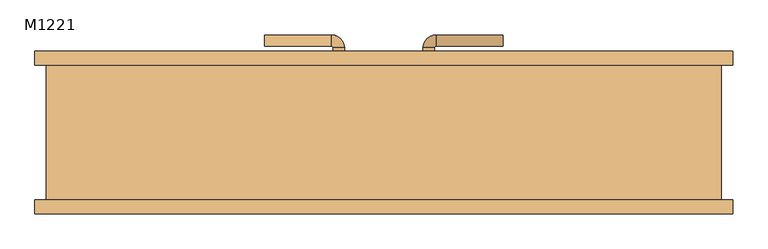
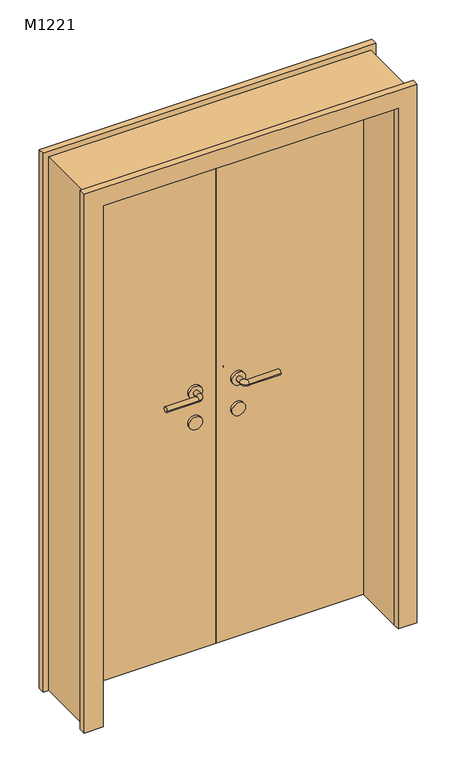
"""IFC4 building model written with IfcOpenShell, lengths in millimetres: door geometry, 双面嵌板木门 1 : M1221."""

from ifc_helpers import new_model, si_unit, point, frame, frame_2d, origin, origin_with_axes, place, context, project, spatial, polyline, circle_curve, ellipse_curve, trimmed, segment, composite_curve, outline, extrude, source, transform, mapped, element, save
from ifc_brep_helpers import plane_surface, cylinder_surface, revolved_surface, advanced_brep


def m1221_25037a99(model_context):
    return source(origin(), model_context, "Body", "SolidModel", [
        extrude(outline(composite_curve([segment(trimmed(circle_curve(frame_2d((900.0, 80.0)), 25.0), [point((900.0, 105.0))], [point((900.0, 55.0))], False, "CARTESIAN"), True, "CONTINUOUS"), segment(trimmed(circle_curve(frame_2d((900.0, 80.0)), 25.0), [point((900.0, 55.0))], [point((900.0, 105.0))], False, "CARTESIAN"), True, "CONTINUOUS")], self_intersect=False)), frame((0.0, 120.0, 0.0), z_axis=(0.0, 1.0, 0.0), x_axis=(0.0, 0.0, 1.0)), (0.0, 0.0, 1.0), 10.0),
        extrude(outline(composite_curve([segment(trimmed(circle_curve(frame_2d((900.0, 80.0)), 25.0), [point((900.0, 105.0))], [point((900.0, 55.0))], False, "CARTESIAN"), True, "CONTINUOUS"), segment(trimmed(circle_curve(frame_2d((900.0, 80.0)), 25.0), [point((900.0, 55.0))], [point((900.0, 105.0))], False, "CARTESIAN"), True, "CONTINUOUS")], self_intersect=False)), frame((0.0, 70.0, 0.0), z_axis=(0.0, 1.0, 0.0), x_axis=(0.0, 0.0, 1.0)), (0.0, 0.0, 1.0), 10.0),
        advanced_brep(
        [(70.0, 130.0, 1020.0), (90.0, 130.0, 1020.0), (70.0, 150.6133551, 1020.0), (90.0, 150.6133551, 1020.0), (211.580964, 173.580964, 1020.0), (211.580964, 153.580964, 1020.0), (92.9676089, 153.580964, 1020.0), (92.9676089, 173.580964, 1020.0)],
        [
            (0, 1, circle_curve(frame((80.0, 130.0, 1020.0), z_axis=(0.0, -1.0, 0.0), x_axis=(1.0, 0.0, 0.0)), 10.0)),
            (1, 0, circle_curve(frame((80.0, 130.0, 1020.0), z_axis=(0.0, -1.0, 0.0), x_axis=(1.0, 0.0, 0.0)), 10.0)),
            (0, 2),
            (2, 3, circle_curve(frame((80.0, 150.6133551, 1020.0), z_axis=(0.0, -1.0, 0.0), x_axis=(1.0, 0.0, 0.0)), 10.0)),
            (3, 1),
            (3, 2, circle_curve(frame((80.0, 150.6133551, 1020.0), z_axis=(0.0, -1.0, 0.0), x_axis=(1.0, 0.0, 0.0)), 10.0)),
            (4, 5, circle_curve(frame((211.580964, 163.580964, 1020.0), z_axis=(1.0, 0.0, 0.0), x_axis=(0.0, -1.0, 0.0)), 10.0)),
            (5, 4, circle_curve(frame((211.580964, 163.580964, 1020.0), z_axis=(1.0, 0.0, 0.0), x_axis=(0.0, -1.0, 0.0)), 10.0)),
            (6, 7, circle_curve(frame((92.9676089, 163.580964, 1020.0), z_axis=(-1.0, 0.0, 0.0), x_axis=(0.0, -1.0, 0.0)), 10.0)),
            (7, 2, circle_curve(frame((92.9676089, 150.6133551, 1020.0), z_axis=(0.0, 0.0, 1.0), x_axis=(-1.0, 0.0, 0.0)), 22.9676089)),
            (3, 6, circle_curve(frame((92.9676089, 150.6133551, 1020.0), z_axis=(0.0, 0.0, -1.0), x_axis=(-1.0, 0.0, 0.0)), 2.9676089)),
            (7, 6, circle_curve(frame((92.9676089, 163.580964, 1020.0), z_axis=(-1.0, 0.0, 0.0), x_axis=(0.0, -1.0, 0.0)), 10.0)),
            (6, 5),
            (4, 7),
        ],
        [
            plane_surface(frame((80.0, 130.0, 900.0), z_axis=(0.0, -1.0, 0.0), x_axis=(0.0, 0.0, 1.0))),
            cylinder_surface(frame((80.0, 130.0, 1020.0), z_axis=(0.0, -1.0, 0.0), x_axis=(1.0, 0.0, 0.0)), 10.0),
            plane_surface(frame((211.580964, 163.580964, 900.0), z_axis=(1.0, 0.0, 0.0), x_axis=(0.0, 0.0, 1.0))),
            revolved_surface(trimmed(ellipse_curve(frame((80.0, 150.6133551, 1020.0), z_axis=(0.0, 1.0, 0.0), x_axis=(1.0, 0.0, 0.0)), 10.0, 10.0), [point((70.0, 150.6133551, 1020.0))], [point((90.0, 150.6133551, 1020.0))], True, "CARTESIAN"), (92.9676089, 150.6133551, 900.0), (0.0, 0.0, 1.0)),
            revolved_surface(trimmed(ellipse_curve(frame((80.0, 150.6133551, 1020.0), z_axis=(0.0, 1.0, 0.0), x_axis=(1.0, 0.0, 0.0)), 10.0, 10.0), [point((90.0, 150.6133551, 1020.0))], [point((70.0, 150.6133551, 1020.0))], True, "CARTESIAN"), (92.9676089, 150.6133551, 900.0), (0.0, 0.0, 1.0)),
            cylinder_surface(frame((92.9676089, 163.580964, 1020.0), z_axis=(-1.0, 0.0, 0.0), x_axis=(0.0, -1.0, 0.0)), 10.0),
        ],
        [
            (0, [[1, 2]]),
            (1, [[3, 4, 5, -1]]),
            (1, [[-5, 6, -3, -2]]),
            (2, [[7, 8]]),
            (3, [[9, 10, -6, 11]]),
            (4, [[12, -11, -4, -10]]),
            (5, [[13, -7, 14, -9]]),
            (5, [[-14, -8, -13, -12]]),
        ],
    ),
        extrude(outline(composite_curve([segment(trimmed(circle_curve(frame_2d((1020.0, 80.0)), 25.0), [point((1020.0, 105.0))], [point((1020.0, 55.0))], False, "CARTESIAN"), True, "CONTINUOUS"), segment(trimmed(circle_curve(frame_2d((1020.0, 80.0)), 25.0), [point((1020.0, 55.0))], [point((1020.0, 105.0))], False, "CARTESIAN"), True, "CONTINUOUS")], self_intersect=False)), frame((0.0, 120.0, 0.0), z_axis=(0.0, 1.0, 0.0), x_axis=(0.0, 0.0, 1.0)), (0.0, 0.0, 1.0), 10.0),
        advanced_brep(
        [(90.0, 70.0, 1020.0), (70.0, 70.0, 1020.0), (70.0, 49.386645, 1020.0), (90.0, 49.386645, 1020.0), (211.580964, 46.419036, 1020.0), (211.580964, 26.419036, 1020.0), (92.9676089, 26.419036, 1020.0), (92.9676089, 46.419036, 1020.0)],
        [
            (0, 1, circle_curve(frame((80.0, 70.0, 1020.0), z_axis=(0.0, 1.0, 0.0), x_axis=(-1.0, 0.0, 0.0)), 10.0)),
            (1, 0, circle_curve(frame((80.0, 70.0, 1020.0), z_axis=(0.0, 1.0, 0.0), x_axis=(-1.0, 0.0, 0.0)), 10.0)),
            (1, 2),
            (2, 3, circle_curve(frame((80.0, 49.386645, 1020.0), z_axis=(0.0, 1.0, 0.0), x_axis=(-1.0, 0.0, 0.0)), 10.0)),
            (3, 0),
            (3, 2, circle_curve(frame((80.0, 49.386645, 1020.0), z_axis=(0.0, 1.0, 0.0), x_axis=(-1.0, 0.0, 0.0)), 10.0)),
            (4, 5, circle_curve(frame((211.580964, 36.419036, 1020.0), z_axis=(1.0, 0.0, 0.0), x_axis=(0.0, -1.0, 0.0)), 10.0)),
            (5, 4, circle_curve(frame((211.580964, 36.419036, 1020.0), z_axis=(1.0, 0.0, 0.0), x_axis=(0.0, -1.0, 0.0)), 10.0)),
            (6, 7, circle_curve(frame((92.9676089, 36.419036, 1020.0), z_axis=(-1.0, 0.0, 0.0), x_axis=(0.0, -1.0, 0.0)), 10.0)),
            (7, 3, circle_curve(frame((92.9676089, 49.386645, 1020.0), z_axis=(0.0, 0.0, -1.0), x_axis=(-1.0, 0.0, 0.0)), 2.9676089)),
            (2, 6, circle_curve(frame((92.9676089, 49.386645, 1020.0), z_axis=(0.0, 0.0, 1.0), x_axis=(-1.0, 0.0, 0.0)), 22.9676089)),
            (7, 6, circle_curve(frame((92.9676089, 36.419036, 1020.0), z_axis=(-1.0, 0.0, 0.0), x_axis=(0.0, -1.0, 0.0)), 10.0)),
            (6, 5),
            (4, 7),
        ],
        [
            plane_surface(frame((80.0, 70.0, 900.0), z_axis=(0.0, 1.0, 0.0), x_axis=(0.0, 0.0, 1.0))),
            cylinder_surface(frame((80.0, 70.0, 1020.0), z_axis=(0.0, 1.0, 0.0), x_axis=(-1.0, 0.0, 0.0)), 10.0),
            plane_surface(frame((211.580964, 36.419036, 900.0), z_axis=(1.0, 0.0, 0.0), x_axis=(0.0, 0.0, 1.0))),
            revolved_surface(trimmed(ellipse_curve(frame((80.0, 49.386645, 1020.0), z_axis=(0.0, -1.0, 0.0), x_axis=(-1.0, 0.0, 0.0)), 10.0, 10.0), [point((90.0, 49.386645, 1020.0))], [point((70.0, 49.386645, 1020.0))], True, "CARTESIAN"), (92.9676089, 49.386645, 900.0), (0.0, 0.0, -1.0)),
            revolved_surface(trimmed(ellipse_curve(frame((80.0, 49.386645, 1020.0), z_axis=(0.0, -1.0, 0.0), x_axis=(-1.0, 0.0, 0.0)), 10.0, 10.0), [point((70.0, 49.386645, 1020.0))], [point((90.0, 49.386645, 1020.0))], True, "CARTESIAN"), (92.9676089, 49.386645, 900.0), (0.0, 0.0, -1.0)),
            cylinder_surface(frame((92.9676089, 36.419036, 1020.0), z_axis=(-1.0, 0.0, 0.0), x_axis=(0.0, -1.0, 0.0)), 10.0),
        ],
        [
            (0, [[1, 2]]),
            (1, [[3, 4, 5, -2]]),
            (1, [[-5, 6, -3, -1]]),
            (2, [[7, 8]]),
            (3, [[9, 10, -4, 11]]),
            (4, [[12, -11, -6, -10]]),
            (5, [[13, -7, 14, -9]]),
            (5, [[-14, -8, -13, -12]]),
        ],
    ),
        extrude(outline(composite_curve([segment(trimmed(circle_curve(frame_2d((1020.0, 80.0)), 25.0), [point((1020.0, 105.0))], [point((1020.0, 55.0))], False, "CARTESIAN"), True, "CONTINUOUS"), segment(trimmed(circle_curve(frame_2d((1020.0, 80.0)), 25.0), [point((1020.0, 55.0))], [point((1020.0, 105.0))], False, "CARTESIAN"), True, "CONTINUOUS")], self_intersect=False)), frame((0.0, 70.0, 0.0), z_axis=(0.0, 1.0, 0.0), x_axis=(0.0, 0.0, 1.0)), (0.0, 0.0, 1.0), 10.0),
        extrude(outline(composite_curve([segment(trimmed(circle_curve(frame_2d((900.0, -80.0)), 25.0), [point((900.0, -105.0))], [point((900.0, -55.0))], False, "CARTESIAN"), True, "CONTINUOUS"), segment(trimmed(circle_curve(frame_2d((900.0, -80.0)), 25.0), [point((900.0, -55.0))], [point((900.0, -105.0))], False, "CARTESIAN"), True, "CONTINUOUS")], self_intersect=False)), frame((0.0, 120.0, 0.0), z_axis=(0.0, 1.0, 0.0), x_axis=(0.0, 0.0, 1.0)), (0.0, 0.0, 1.0), 10.0),
        extrude(outline(composite_curve([segment(trimmed(circle_curve(frame_2d((900.0, -80.0)), 25.0), [point((900.0, -105.0))], [point((900.0, -55.0))], False, "CARTESIAN"), True, "CONTINUOUS"), segment(trimmed(circle_curve(frame_2d((900.0, -80.0)), 25.0), [point((900.0, -55.0))], [point((900.0, -105.0))], False, "CARTESIAN"), True, "CONTINUOUS")], self_intersect=False)), frame((0.0, 70.0, 0.0), z_axis=(0.0, 1.0, 0.0), x_axis=(0.0, 0.0, 1.0)), (0.0, 0.0, 1.0), 10.0),
        advanced_brep(
        [(-70.0, 130.0, 1020.0), (-90.0, 130.0, 1020.0), (-90.0, 150.6133551, 1020.0), (-70.0, 150.6133551, 1020.0), (-211.580964, 173.580964, 1020.0), (-211.580964, 153.580964, 1020.0), (-92.9676089, 153.580964, 1020.0), (-92.9676089, 173.580964, 1020.0)],
        [
            (0, 1, circle_curve(frame((-80.0, 130.0, 1020.0), z_axis=(0.0, -1.0, 0.0), x_axis=(-1.0, 0.0, 0.0)), 10.0)),
            (1, 0, circle_curve(frame((-80.0, 130.0, 1020.0), z_axis=(0.0, -1.0, 0.0), x_axis=(-1.0, 0.0, 0.0)), 10.0)),
            (1, 2),
            (2, 3, circle_curve(frame((-80.0, 150.6133551, 1020.0), z_axis=(0.0, -1.0, 0.0), x_axis=(-1.0, 0.0, 0.0)), 10.0)),
            (3, 0),
            (3, 2, circle_curve(frame((-80.0, 150.6133551, 1020.0), z_axis=(0.0, -1.0, 0.0), x_axis=(-1.0, 0.0, 0.0)), 10.0)),
            (4, 5, circle_curve(frame((-211.580964, 163.580964, 1020.0), z_axis=(-1.0, 0.0, 0.0), x_axis=(0.0, -1.0, 0.0)), 10.0)),
            (5, 4, circle_curve(frame((-211.580964, 163.580964, 1020.0), z_axis=(-1.0, 0.0, 0.0), x_axis=(0.0, -1.0, 0.0)), 10.0)),
            (6, 2, circle_curve(frame((-92.9676089, 150.6133551, 1020.0), z_axis=(0.0, 0.0, -1.0), x_axis=(1.0, 0.0, 0.0)), 2.9676089)),
            (3, 7, circle_curve(frame((-92.9676089, 150.6133551, 1020.0), z_axis=(0.0, 0.0, 1.0), x_axis=(1.0, 0.0, 0.0)), 22.9676089)),
            (7, 6, circle_curve(frame((-92.9676089, 163.580964, 1020.0), z_axis=(1.0, 0.0, 0.0), x_axis=(0.0, -1.0, 0.0)), 10.0)),
            (6, 7, circle_curve(frame((-92.9676089, 163.580964, 1020.0), z_axis=(1.0, 0.0, 0.0), x_axis=(0.0, -1.0, 0.0)), 10.0)),
            (7, 4),
            (5, 6),
        ],
        [
            plane_surface(frame((-80.0, 130.0, 900.0), z_axis=(0.0, -1.0, 0.0), x_axis=(0.0, 0.0, 1.0))),
            cylinder_surface(frame((-80.0, 130.0, 1020.0), z_axis=(0.0, -1.0, 0.0), x_axis=(-1.0, 0.0, 0.0)), 10.0),
            plane_surface(frame((-211.580964, 163.580964, 900.0), z_axis=(-1.0, 0.0, 0.0), x_axis=(0.0, 0.0, 1.0))),
            revolved_surface(trimmed(ellipse_curve(frame((-80.0, 150.6133551, 1020.0), z_axis=(0.0, -1.0, 0.0), x_axis=(-1.0, 0.0, 0.0)), 10.0, 10.0), [point((-70.0, 150.6133551, 1020.0))], [point((-90.0, 150.6133551, 1020.0))], True, "CARTESIAN"), (-92.9676089, 150.6133551, 900.0), (0.0, 0.0, 1.0)),
            revolved_surface(trimmed(ellipse_curve(frame((-80.0, 150.6133551, 1020.0), z_axis=(0.0, -1.0, 0.0), x_axis=(-1.0, 0.0, 0.0)), 10.0, 10.0), [point((-90.0, 150.6133551, 1020.0))], [point((-70.0, 150.6133551, 1020.0))], True, "CARTESIAN"), (-92.9676089, 150.6133551, 900.0), (0.0, 0.0, 1.0)),
            cylinder_surface(frame((-92.9676089, 163.580964, 1020.0), z_axis=(1.0, 0.0, 0.0), x_axis=(0.0, -1.0, 0.0)), 10.0),
        ],
        [
            (0, [[1, 2]]),
            (1, [[-2, 3, 4, 5]]),
            (1, [[-1, -5, 6, -3]]),
            (2, [[7, 8]]),
            (3, [[9, -6, 10, 11]]),
            (4, [[-10, -4, -9, 12]]),
            (5, [[-11, 13, -8, 14]]),
            (5, [[-12, -14, -7, -13]]),
        ],
    ),
        extrude(outline(composite_curve([segment(trimmed(circle_curve(frame_2d((1020.0, -80.0)), 25.0), [point((1020.0, -105.0))], [point((1020.0, -55.0))], False, "CARTESIAN"), True, "CONTINUOUS"), segment(trimmed(circle_curve(frame_2d((1020.0, -80.0)), 25.0), [point((1020.0, -55.0))], [point((1020.0, -105.0))], False, "CARTESIAN"), True, "CONTINUOUS")], self_intersect=False)), frame((0.0, 120.0, 0.0), z_axis=(0.0, 1.0, 0.0), x_axis=(0.0, 0.0, 1.0)), (0.0, 0.0, 1.0), 10.0),
        advanced_brep(
        [(-90.0, 70.0, 1020.0), (-70.0, 70.0, 1020.0), (-90.0, 49.386645, 1020.0), (-70.0, 49.386645, 1020.0), (-211.580964, 46.419036, 1020.0), (-211.580964, 26.419036, 1020.0), (-92.9676089, 26.419036, 1020.0), (-92.9676089, 46.419036, 1020.0)],
        [
            (0, 1, circle_curve(frame((-80.0, 70.0, 1020.0), z_axis=(0.0, 1.0, 0.0), x_axis=(1.0, 0.0, 0.0)), 10.0)),
            (1, 0, circle_curve(frame((-80.0, 70.0, 1020.0), z_axis=(0.0, 1.0, 0.0), x_axis=(1.0, 0.0, 0.0)), 10.0)),
            (0, 2),
            (2, 3, circle_curve(frame((-80.0, 49.386645, 1020.0), z_axis=(0.0, 1.0, 0.0), x_axis=(1.0, 0.0, 0.0)), 10.0)),
            (3, 1),
            (3, 2, circle_curve(frame((-80.0, 49.386645, 1020.0), z_axis=(0.0, 1.0, 0.0), x_axis=(1.0, 0.0, 0.0)), 10.0)),
            (4, 5, circle_curve(frame((-211.580964, 36.419036, 1020.0), z_axis=(-1.0, 0.0, 0.0), x_axis=(0.0, -1.0, 0.0)), 10.0)),
            (5, 4, circle_curve(frame((-211.580964, 36.419036, 1020.0), z_axis=(-1.0, 0.0, 0.0), x_axis=(0.0, -1.0, 0.0)), 10.0)),
            (6, 3, circle_curve(frame((-92.9676089, 49.386645, 1020.0), z_axis=(0.0, 0.0, 1.0), x_axis=(1.0, 0.0, 0.0)), 22.9676089)),
            (2, 7, circle_curve(frame((-92.9676089, 49.386645, 1020.0), z_axis=(0.0, 0.0, -1.0), x_axis=(1.0, 0.0, 0.0)), 2.9676089)),
            (7, 6, circle_curve(frame((-92.9676089, 36.419036, 1020.0), z_axis=(1.0, 0.0, 0.0), x_axis=(0.0, -1.0, 0.0)), 10.0)),
            (6, 7, circle_curve(frame((-92.9676089, 36.419036, 1020.0), z_axis=(1.0, 0.0, 0.0), x_axis=(0.0, -1.0, 0.0)), 10.0)),
            (7, 4),
            (5, 6),
        ],
        [
            plane_surface(frame((-80.0, 70.0, 900.0), z_axis=(0.0, 1.0, 0.0), x_axis=(0.0, 0.0, 1.0))),
            cylinder_surface(frame((-80.0, 70.0, 1020.0), z_axis=(0.0, 1.0, 0.0), x_axis=(1.0, 0.0, 0.0)), 10.0),
            plane_surface(frame((-211.580964, 36.419036, 900.0), z_axis=(-1.0, 0.0, 0.0), x_axis=(0.0, 0.0, 1.0))),
            revolved_surface(trimmed(ellipse_curve(frame((-80.0, 49.386645, 1020.0), z_axis=(0.0, 1.0, 0.0), x_axis=(1.0, 0.0, 0.0)), 10.0, 10.0), [point((-90.0, 49.386645, 1020.0))], [point((-70.0, 49.386645, 1020.0))], True, "CARTESIAN"), (-92.9676089, 49.386645, 900.0), (0.0, 0.0, -1.0)),
            revolved_surface(trimmed(ellipse_curve(frame((-80.0, 49.386645, 1020.0), z_axis=(0.0, 1.0, 0.0), x_axis=(1.0, 0.0, 0.0)), 10.0, 10.0), [point((-70.0, 49.386645, 1020.0))], [point((-90.0, 49.386645, 1020.0))], True, "CARTESIAN"), (-92.9676089, 49.386645, 900.0), (0.0, 0.0, -1.0)),
            cylinder_surface(frame((-92.9676089, 36.419036, 1020.0), z_axis=(1.0, 0.0, 0.0), x_axis=(0.0, -1.0, 0.0)), 10.0),
        ],
        [
            (0, [[1, 2]]),
            (1, [[-1, 3, 4, 5]]),
            (1, [[-2, -5, 6, -3]]),
            (2, [[7, 8]]),
            (3, [[9, -4, 10, 11]]),
            (4, [[-10, -6, -9, 12]]),
            (5, [[-11, 13, -8, 14]]),
            (5, [[-12, -14, -7, -13]]),
        ],
    ),
        extrude(outline(composite_curve([segment(trimmed(circle_curve(frame_2d((1020.0, -80.0)), 25.0), [point((1020.0, -105.0))], [point((1020.0, -55.0))], False, "CARTESIAN"), True, "CONTINUOUS"), segment(trimmed(circle_curve(frame_2d((1020.0, -80.0)), 25.0), [point((1020.0, -55.0))], [point((1020.0, -105.0))], False, "CARTESIAN"), True, "CONTINUOUS")], self_intersect=False)), frame((0.0, 70.0, 0.0), z_axis=(0.0, 1.0, 0.0), x_axis=(0.0, 0.0, 1.0)), (0.0, 0.0, 1.0), 10.0),
        extrude(outline(polyline([(0.0, 620.0), (2120.0, 620.0), (2120.0, -620.0), (0.0, -620.0), (0.0, -550.0), (2050.0, -550.0), (2050.0, 550.0), (0.0, 550.0), (0.0, 620.0)])), frame((0.0, 120.0, 0.0), z_axis=(0.0, 1.0, 0.0), x_axis=(0.0, 0.0, 1.0)), (0.0, 0.0, 1.0), 25.0),
        extrude(outline(polyline([(2120.0, 620.0), (2120.0, -620.0), (0.0, -620.0), (0.0, -550.0), (2050.0, -550.0), (2050.0, 550.0), (0.0, 550.0), (0.0, 620.0), (2120.0, 620.0)])), frame((0.0, -145.0, 0.0), z_axis=(0.0, 1.0, 0.0), x_axis=(0.0, 0.0, 1.0)), (0.0, 0.0, 1.0), 25.0),
        extrude(outline(polyline([(550.0, 80.0), (0.0, 80.0), (0.0, 120.0), (550.0, 120.0), (550.0, 80.0)])), origin_with_axes(), (0.0, 0.0, 1.0), 2050.0),
        extrude(outline(polyline([(0.0, 80.0), (-550.0, 80.0), (-550.0, 120.0), (0.0, 120.0), (0.0, 80.0)])), origin_with_axes(), (0.0, 0.0, 1.0), 2050.0),
        extrude(outline(polyline([(2100.0, -600.0), (0.0, -600.0), (0.0, -550.0), (2050.0, -550.0), (2050.0, 550.0), (0.0, 550.0), (0.0, 600.0), (2100.0, 600.0), (2100.0, -600.0)])), frame((0.0, -120.0, 0.0), z_axis=(0.0, 1.0, 0.0), x_axis=(0.0, 0.0, 1.0)), (0.0, 0.0, 1.0), 240.0),
    ])


if __name__ == "__main__":
    model = new_model("IFC4")
    model_context = context("Model", 3, world=origin())
    ifc_project = project(units=[si_unit("LENGTHUNIT", "METRE", prefix="MILLI")], contexts=[model_context])
    site = spatial("IfcSite", under=ifc_project)
    building = spatial("IfcBuilding", under=site)
    placement = place(None, origin())
    m1221_shape = m1221_25037a99(model_context)
    element("IfcDoor", 1, ObjectType="双面嵌板木门 1 : M1221", at=placement, inside=building, context=model_context, shape_type="MappedRepresentation", body=[
        mapped(m1221_shape, transform((0.0, 0.0, 0.0), x_axis=(1.0, 0.0, 0.0), y_axis=(0.0, 1.0, 0.0), z_axis=(0.0, 0.0, 1.0))),
    ])
    save(model, "model.ifc")
